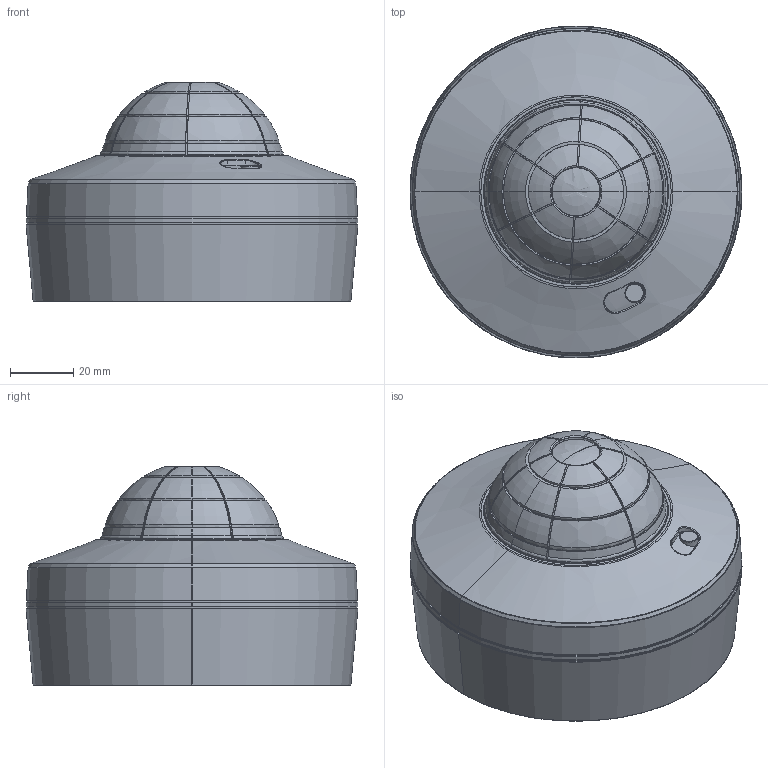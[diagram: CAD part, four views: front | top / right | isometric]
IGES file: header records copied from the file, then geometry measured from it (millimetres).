
Start section: SolidWorks IGES file using analytic representation for surfaces
Global section: file name: C:\Users\Public\HAOSENSOFTWARE\YFTSolidWorksArasPLM-V3.1.3-2023-beta\SaveAs_files\9C1-4550487-000-00.IGS; native system: SolidWorks 2023; preprocessor: SolidWorks 2023; author: P.SACHSENWEGER; date: 250923.104401; units: millimetre
Bounding box: 105.15 x 105.15 x 69.38 mm (x, y, z)
Surface area: 114762.5 mm2 (no closed solid volume)
Topology: 0 solids, 0 shells, 528 faces, 7410 edges, 7409 vertices
Faces by surface type: bspline 363, revolution 165
